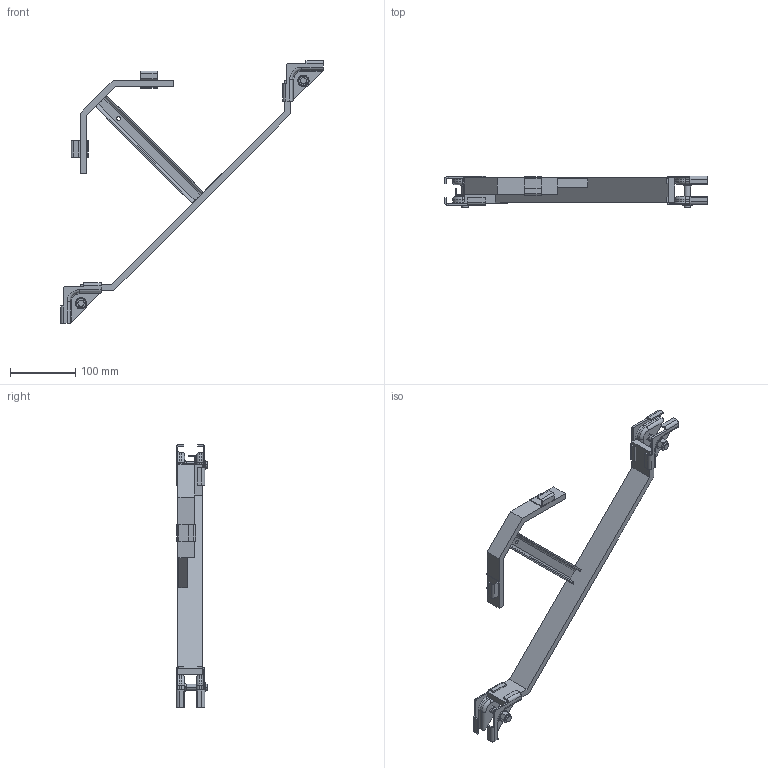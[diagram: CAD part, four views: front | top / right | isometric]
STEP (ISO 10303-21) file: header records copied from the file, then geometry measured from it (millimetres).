
FILE_DESCRIPTION (( 'STEP AP203' ), '1' );
FILE_NAME ('lcsk.STEP', '2008-02-27T21:24:06', ( '' ), ( '' ), 'SwSTEP 2.0', 'SolidWorks 2007', '' );
FILE_SCHEMA (( 'CONFIG_CONTROL_DESIGN' ));
Length unit declared in the file: inch
Products named in the file (8): S-Clip; WasherLock.375; lcsk; CornerSupportBrkt; JunctionSpliceBrkt; Nut.375; CarriageBolt.375x1.50; JunctionSpliceKit
Assembly tree (10 placements, depth 3):
  lcsk
    JunctionSpliceKit  x2
      WasherLock.375
      JunctionSpliceBrkt
      CarriageBolt.375x1.50
      Nut.375
    S-Clip  x2
    CornerSupportBrkt
Bounding box: 401.85 x 48.01 x 401.85 mm (x, y, z)
Volume: 313660.8 mm3; surface area: 126683.9 mm2
Topology: 13 solids, 13 shells, 378 faces, 954 edges, 606 vertices
Faces by surface type: plane 192, cylinder 120, cone 36, torus 26, sphere 4
Entity records: 5945 total; most frequent: CARTESIAN_POINT 1080, DIRECTION 839, ORIENTED_EDGE 812, EDGE_CURVE 406, AXIS2_PLACEMENT_3D 296, VERTEX_POINT 259, LINE 247, VECTOR 247
